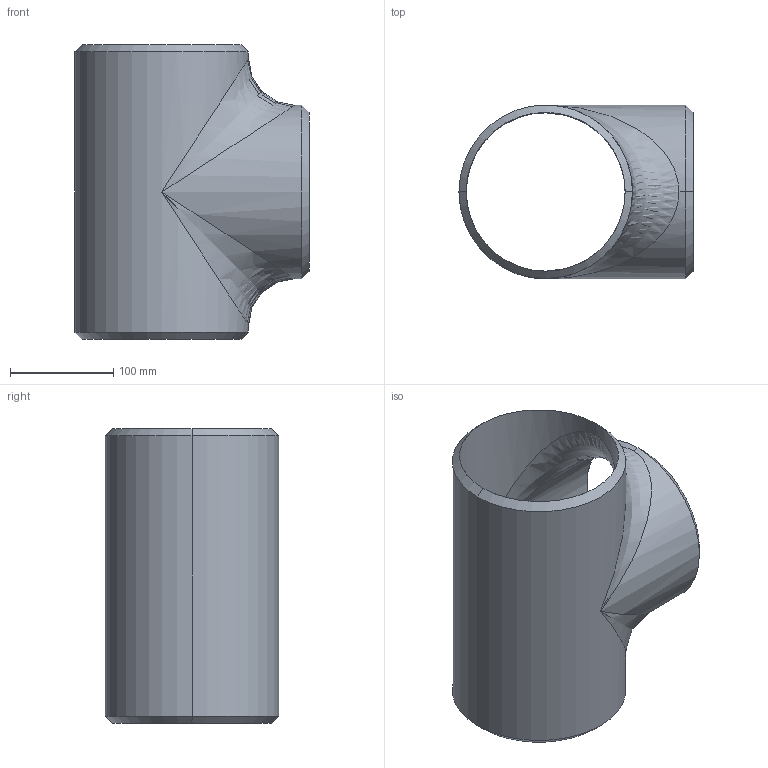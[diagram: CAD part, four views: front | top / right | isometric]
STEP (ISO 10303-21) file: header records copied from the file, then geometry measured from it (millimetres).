
FILE_DESCRIPTION (( 'STEP AP203' ), '1' );
FILE_NAME ('3D_R266_6x40S_173445260.STEP', '2024-08-23T11:17:57', ( '' ), ( '' ), 'SwSTEP 2.0', 'SolidWorks 2024', '' );
FILE_SCHEMA (( 'CONFIG_CONTROL_DESIGN' ));
Length unit declared in the file: millimetre
Products named in the file (1): 3D_R266_6x40S_173445260
Bounding box: 227.05 x 168.3 x 285.8 mm (x, y, z)
Volume: 1115890.7 mm3; surface area: 328670.4 mm2
Topology: 1 solids, 1 shells, 21 faces, 58 edges, 30 vertices
Faces by surface type: cylinder 8, cone 6, bspline 4, plane 3
Entity records: 1459 total; most frequent: CARTESIAN_POINT 938, ORIENTED_EDGE 100, DIRECTION 88, EDGE_CURVE 50, AXIS2_PLACEMENT_3D 36, VERTEX_POINT 30, EDGE_LOOP 24, ADVANCED_FACE 21
